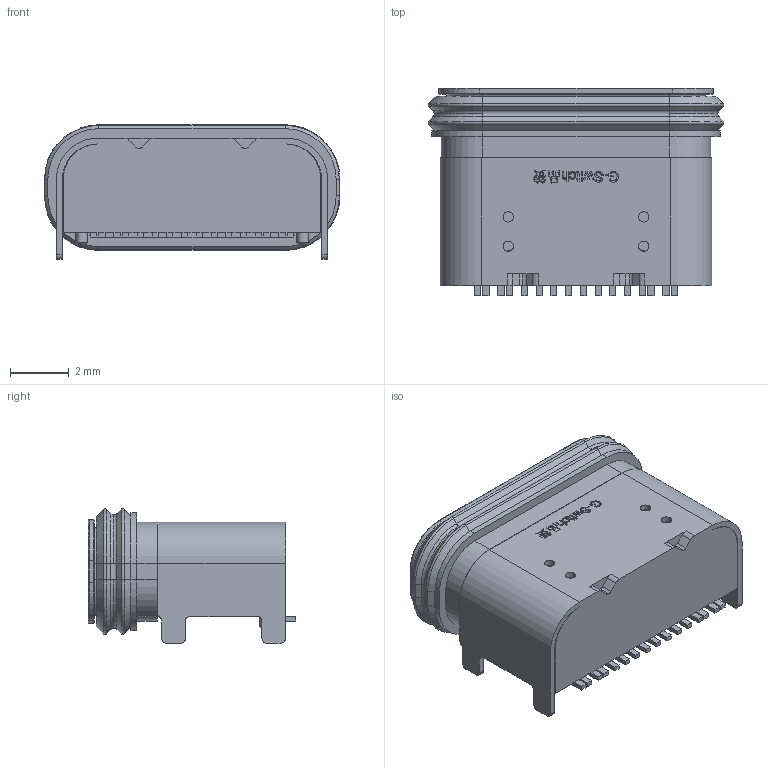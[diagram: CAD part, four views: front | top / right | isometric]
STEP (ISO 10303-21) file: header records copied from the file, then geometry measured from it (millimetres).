
FILE_DESCRIPTION (( 'STEP AP203' ), '1' );
FILE_NAME ('GT-USB-9079E.STEP', '2025-04-14T06:53:29', ( '' ), ( '' ), 'SwSTEP 2.0', 'SolidWorks 2023', '' );
FILE_SCHEMA (( 'CONFIG_CONTROL_DESIGN' ));
Length unit declared in the file: millimetre
Products named in the file (1): GT-USB-9079E
Bounding box: 10.04 x 7.05 x 4.56 mm (x, y, z)
Volume: 125.6 mm3; surface area: 603.8 mm2
Topology: 2 solids, 8 shells, 1188 faces, 3165 edges, 2008 vertices
Faces by surface type: plane 637, cylinder 289, torus 116, bspline 90, cone 56
Entity records: 40696 total; most frequent: CARTESIAN_POINT 11193, ORIENTED_EDGE 6330, DIRECTION 5924, EDGE_CURVE 3165, LINE 2052, VECTOR 2052, VERTEX_POINT 2008, AXIS2_PLACEMENT_3D 1936
